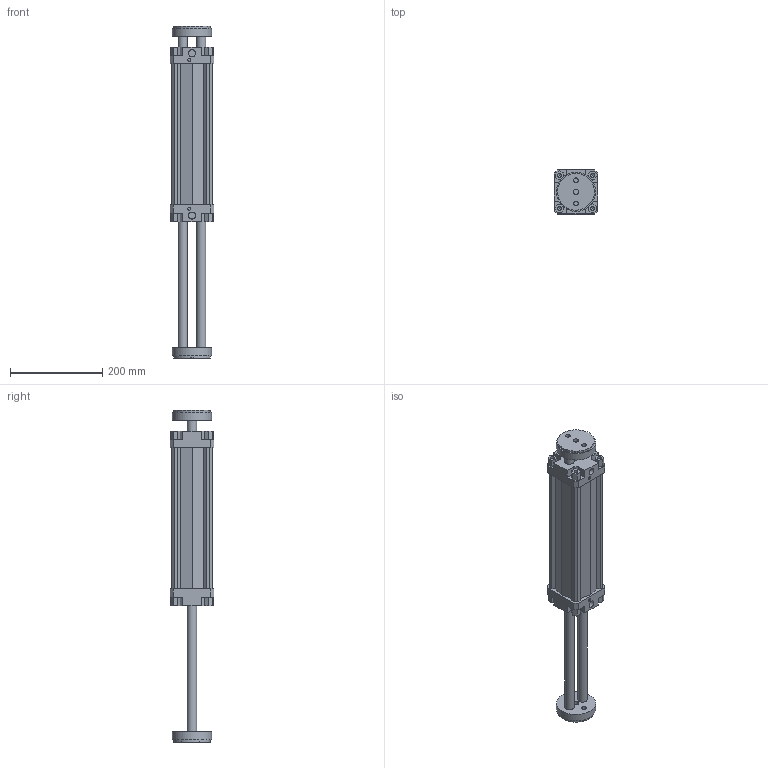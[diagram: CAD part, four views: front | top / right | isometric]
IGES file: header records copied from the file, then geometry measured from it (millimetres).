
Global section: file name: 132#_080_0250_06; native system: Autodesk Inventor 2014; preprocessor: unknown; author: A. Manieri; date: 20161006.162423; units: millimetre
Bounding box: 95 x 95 x 720 mm (x, y, z)
Volume: 1998210.9 mm3; surface area: 404533.1 mm2
Topology: 2 solids, 2 shells, 190 faces, 518 edges, 354 vertices
Faces by surface type: bspline 190
